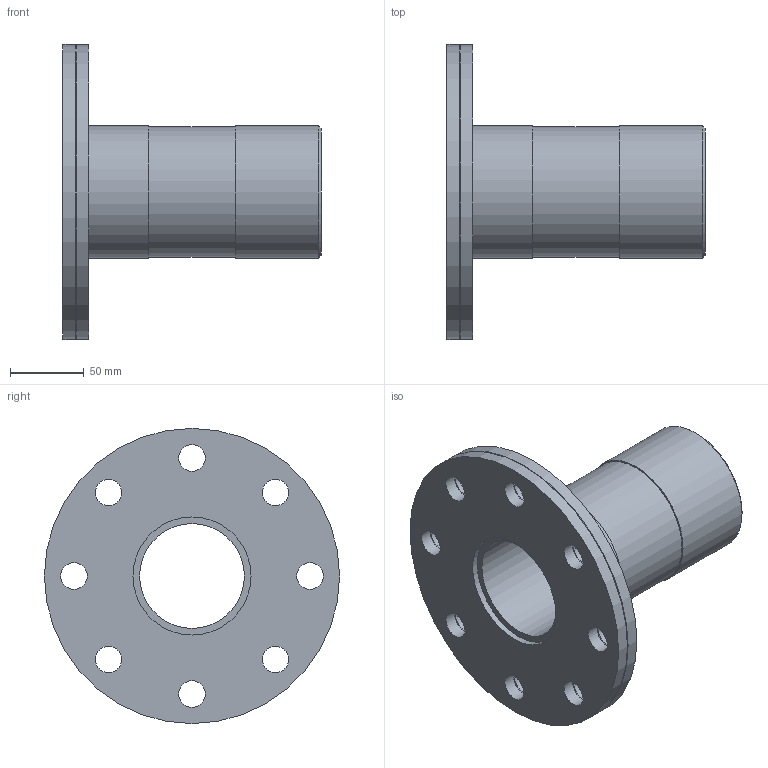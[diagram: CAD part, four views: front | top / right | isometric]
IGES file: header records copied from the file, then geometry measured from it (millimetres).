
Global section: file name: 872306090030_182306090030.ipt; native system: Autodesk Inventor 2015; preprocessor: unknown; author: Кирилл,,11,0; organization: 20170224.180708; date: 20170608.042706; units: millimetre
Bounding box: 175 x 200 x 200 mm (x, y, z)
Volume: 764942.4 mm3; surface area: 159280.4 mm2
Topology: 1 solids, 1 shells, 50 faces, 147 edges, 104 vertices
Faces by surface type: revolution 35, plane 7, cylinder 5, cone 3
Full cylindrical faces by diameter (mm): 88.2 x1, 90 x2, 200 x2
